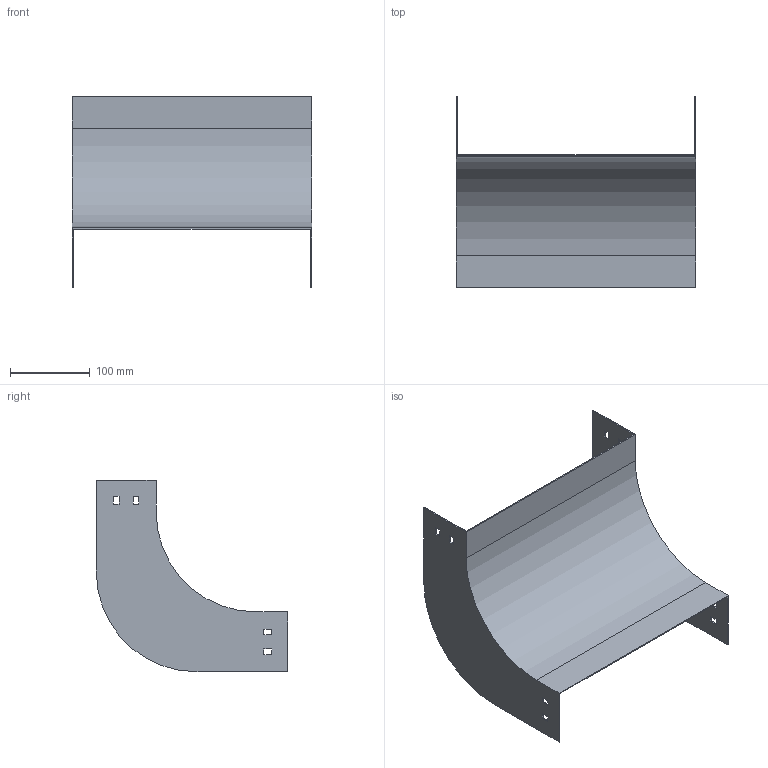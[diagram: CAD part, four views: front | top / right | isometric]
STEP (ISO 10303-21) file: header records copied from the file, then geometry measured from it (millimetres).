
FILE_DESCRIPTION (( 'STEP AP214' ), '1' );
FILE_NAME ('D9_307.step', '2025-07-16T09:08:53', ( '' ), ( '' ), 'SwSTEP 2.0', 'SolidWorks 2023', '' );
FILE_SCHEMA (( 'AUTOMOTIVE_DESIGN' ));
Length unit declared in the file: millimetre
Products named in the file (1): D9_307
Bounding box: 300 x 240 x 240 mm (x, y, z)
Volume: 213923.6 mm3; surface area: 288255.9 mm2
Topology: 1 solids, 1 shells, 50 faces, 144 edges, 96 vertices
Faces by surface type: plane 46, cylinder 4
Entity records: 1671 total; most frequent: CARTESIAN_POINT 291, ORIENTED_EDGE 288, DIRECTION 254, EDGE_CURVE 144, VECTOR 136, LINE 136, VERTEX_POINT 96, EDGE_LOOP 66
